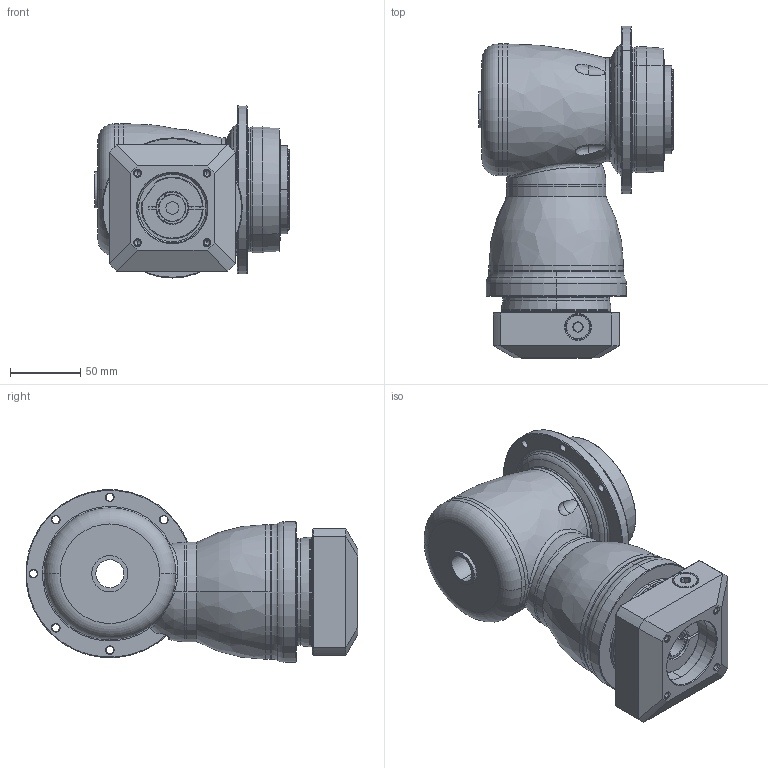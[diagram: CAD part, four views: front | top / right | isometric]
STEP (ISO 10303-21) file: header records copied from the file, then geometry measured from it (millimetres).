
FILE_DESCRIPTION((''),'2;1');
FILE_NAME('KH090_1ST_19-P0409400101_ASM','2016-06-07T',('d01943'),(''),'PRO/ENGINEER BY PARAMETRIC TECHNOLOGY CORPORATION, 2008410','PRO/ENGINEER BY PARAMETRIC TECHNOLOGY CORPORATION, 2008410','');
FILE_SCHEMA(('CONFIG_CONTROL_DESIGN'));
Length unit declared in the file: millimetre
Products named in the file (11): P1008300002_AF1; P1816300001_AF1; P1817300001_AF1; P1315300001_AF1; P1007300001; P1318300201; P0409400101; P0503400006; P0912302001; 21711412017; KH090_1ST_19-P0409400101_ASM
Assembly tree (10 placements, depth 2):
  KH090_1ST_19-P0409400101_ASM
    P1008300002_AF1
    P1816300001_AF1
    P1817300001_AF1
    P1315300001_AF1
    P1007300001
    P1318300201
    P0409400101
    P0503400006
    P0912302001
    21711412017
Bounding box: 138.8 x 236.77 x 122.77 mm (x, y, z)
Volume: 1539172.4 mm3; surface area: 229313.3 mm2
Topology: 11 solids, 11 shells, 532 faces, 1201 edges, 706 vertices
Faces by surface type: cylinder 189, cone 142, plane 93, torus 70, bspline 36, sphere 2
Entity records: 21360 total; most frequent: CARTESIAN_POINT 9320, DIRECTION 2682, ORIENTED_EDGE 2312, EDGE_CURVE 1156, AXIS2_PLACEMENT_3D 1145, VERTEX_POINT 699, CIRCLE 628, EDGE_LOOP 621
